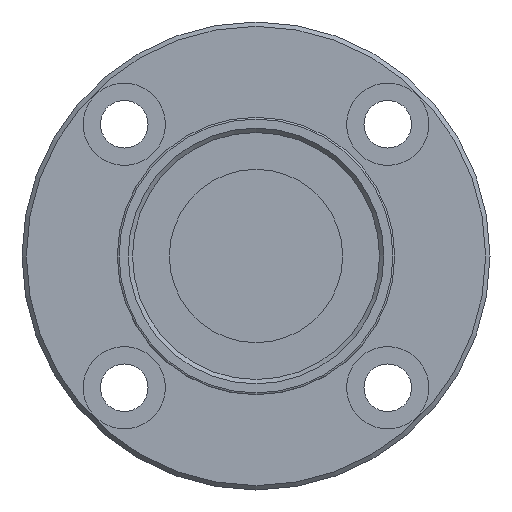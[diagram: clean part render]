
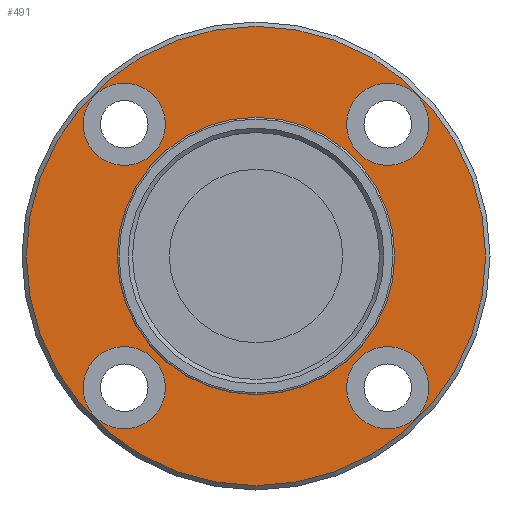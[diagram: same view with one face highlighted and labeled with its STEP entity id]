
A CAD part, front view. The second image highlights one B-rep face of the part: STEP entity #491.
In plain terms, the highlighted planar face has unit normal (0, -1, 0).
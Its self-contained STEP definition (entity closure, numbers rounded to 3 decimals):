
#101=CARTESIAN_POINT('',(-10.453,-40.,-15.203));
#102=VERTEX_POINT('',#101);
#103=CARTESIAN_POINT('',(-15.203,-40.,-15.203));
#104=DIRECTION('',(0.0,1.0,0.0));
#105=DIRECTION('',(1.0,0.0,0.0));
#106=AXIS2_PLACEMENT_3D('',#103,#104,#105);
#107=CIRCLE('',#106,4.75);
#108=EDGE_CURVE('',#102,#102,#107,.T.);
#169=CARTESIAN_POINT('',(19.953,-40.,-15.203));
#170=VERTEX_POINT('',#169);
#171=CARTESIAN_POINT('',(15.203,-40.,-15.203));
#172=DIRECTION('',(0.0,1.0,0.0));
#173=DIRECTION('',(1.0,0.0,0.0));
#174=AXIS2_PLACEMENT_3D('',#171,#172,#173);
#175=CIRCLE('',#174,4.75);
#176=EDGE_CURVE('',#170,#170,#175,.T.);
#237=CARTESIAN_POINT('',(19.953,-40.,15.203));
#238=VERTEX_POINT('',#237);
#239=CARTESIAN_POINT('',(15.203,-40.,15.203));
#240=DIRECTION('',(0.0,1.0,0.0));
#241=DIRECTION('',(1.0,0.0,0.0));
#242=AXIS2_PLACEMENT_3D('',#239,#240,#241);
#243=CIRCLE('',#242,4.75);
#244=EDGE_CURVE('',#238,#238,#243,.T.);
#305=CARTESIAN_POINT('',(-10.453,-40.,15.203));
#306=VERTEX_POINT('',#305);
#307=CARTESIAN_POINT('',(-15.203,-40.,15.203));
#308=DIRECTION('',(0.0,1.0,0.0));
#309=DIRECTION('',(1.0,0.0,0.0));
#310=AXIS2_PLACEMENT_3D('',#307,#308,#309);
#311=CIRCLE('',#310,4.75);
#312=EDGE_CURVE('',#306,#306,#311,.T.);
#345=CARTESIAN_POINT('',(16.,-40.,0.0));
#346=VERTEX_POINT('',#345);
#347=CARTESIAN_POINT('',(0.0,-40.,0.0));
#348=DIRECTION('',(0.0,-1.0,0.0));
#349=DIRECTION('',(1.0,0.0,0.0));
#350=AXIS2_PLACEMENT_3D('',#347,#348,#349);
#351=CIRCLE('',#350,16.);
#352=EDGE_CURVE('',#346,#346,#351,.T.);
#453=CARTESIAN_POINT('',(26.5,-40.,0.0));
#454=VERTEX_POINT('',#453);
#455=CARTESIAN_POINT('',(0.0,-40.,0.0));
#456=DIRECTION('',(0.0,-1.0,0.0));
#457=DIRECTION('',(1.0,0.0,0.0));
#458=AXIS2_PLACEMENT_3D('',#455,#456,#457);
#459=CIRCLE('',#458,26.5);
#460=EDGE_CURVE('',#454,#454,#459,.T.);
#468=CARTESIAN_POINT('',(21.25,-40.,0.0));
#469=DIRECTION('',(0.0,-1.0,0.0));
#470=DIRECTION('',(0.0,0.0,-1.0));
#471=AXIS2_PLACEMENT_3D('',#468,#469,#470);
#472=PLANE('',#471);
#473=ORIENTED_EDGE('',*,*,#460,.T.);
#474=EDGE_LOOP('',(#473));
#475=FACE_OUTER_BOUND('',#474,.T.);
#476=ORIENTED_EDGE('',*,*,#108,.T.);
#477=EDGE_LOOP('',(#476));
#478=FACE_BOUND('',#477,.T.);
#479=ORIENTED_EDGE('',*,*,#176,.T.);
#480=EDGE_LOOP('',(#479));
#481=FACE_BOUND('',#480,.T.);
#482=ORIENTED_EDGE('',*,*,#244,.T.);
#483=EDGE_LOOP('',(#482));
#484=FACE_BOUND('',#483,.T.);
#485=ORIENTED_EDGE('',*,*,#312,.T.);
#486=EDGE_LOOP('',(#485));
#487=FACE_BOUND('',#486,.T.);
#488=ORIENTED_EDGE('',*,*,#352,.F.);
#489=EDGE_LOOP('',(#488));
#490=FACE_BOUND('',#489,.T.);
#491=ADVANCED_FACE('',(#475,#478,#481,#484,#487,#490),#472,.T.);
